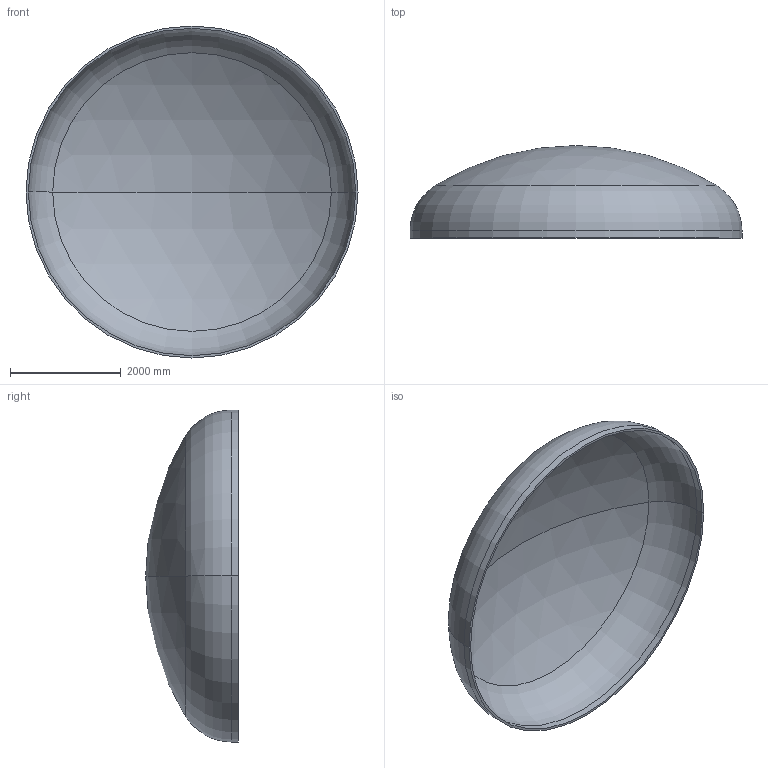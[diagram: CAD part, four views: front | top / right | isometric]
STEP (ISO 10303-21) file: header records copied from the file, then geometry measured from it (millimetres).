
FILE_DESCRIPTION (( 'STEP AP203' ), '1' );
FILE_NAME ('DIN 28013 Korbbogenform_-_Boden DIN 28013 - 6000 x 130 - I - s=42.step', '2016-07-04T10:37:01', ( '' ), ( '' ), 'SwSTEP 2.0', 'SolidWorks 2013', '' );
FILE_SCHEMA (( 'CONFIG_CONTROL_DESIGN' ));
Length unit declared in the file: millimetre
Products named in the file (1): DIN 28013 Korbbogenform_-_Boden DIN 28013 - 6000 x 130 - I - s=42
Bounding box: 6000 x 1673.13 x 6000 mm (x, y, z)
Volume: 1732112126.5 mm3; surface area: 83271332.2 mm2
Topology: 1 solids, 1 shells, 13 faces, 24 edges, 14 vertices
Faces by surface type: torus 4, cylinder 4, sphere 4, plane 1
Entity records: 407 total; most frequent: DIRECTION 72, CARTESIAN_POINT 52, ORIENTED_EDGE 48, AXIS2_PLACEMENT_3D 34, EDGE_CURVE 24, CIRCLE 20, EDGE_LOOP 14, VERTEX_POINT 14
